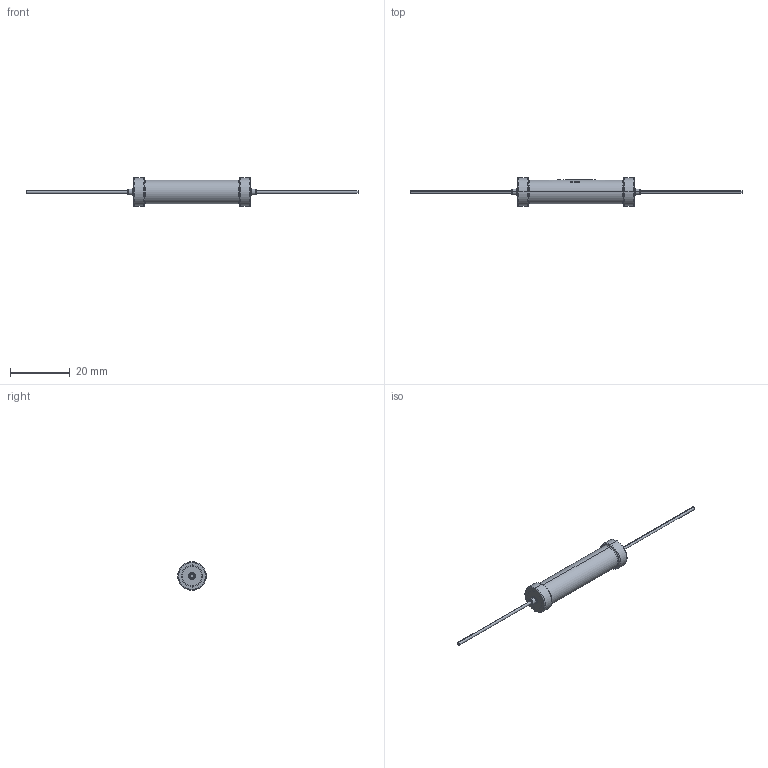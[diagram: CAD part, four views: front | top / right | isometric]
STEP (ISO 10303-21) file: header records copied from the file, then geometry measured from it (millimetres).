
FILE_DESCRIPTION (( 'STEP AP203' ), '1' );
FILE_NAME ('HVHR3908.STEP', '2024-10-25T03:08:11', ( '' ), ( '' ), 'SwSTEP 2.0', 'SolidWorks 2022', '' );
FILE_SCHEMA (( 'CONFIG_CONTROL_DESIGN' ));
Length unit declared in the file: millimetre
Products named in the file (1): HVHR3908
Bounding box: 110.8 x 9.5 x 9.5 mm (x, y, z)
Volume: 2177.7 mm3; surface area: 3739.3 mm2
Topology: 4 solids, 4 shells, 417 faces, 1067 edges, 702 vertices
Faces by surface type: bspline 194, plane 129, cylinder 66, torus 28
Entity records: 23771 total; most frequent: CARTESIAN_POINT 15142, ORIENTED_EDGE 2134, DIRECTION 1129, EDGE_CURVE 1067, VERTEX_POINT 702, B_SPLINE_CURVE_WITH_KNOTS 608, EDGE_LOOP 463, AXIS2_PLACEMENT_3D 446
